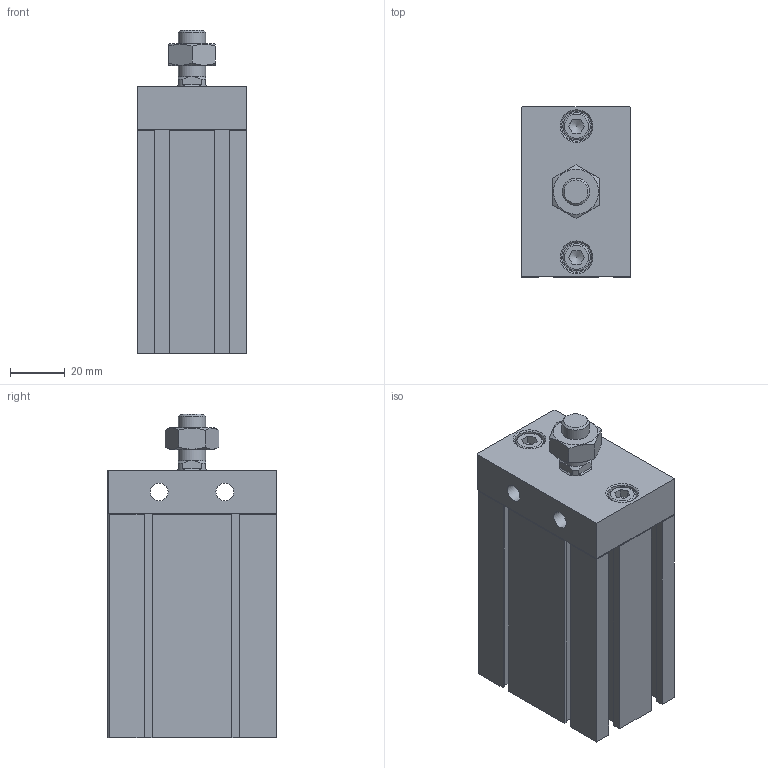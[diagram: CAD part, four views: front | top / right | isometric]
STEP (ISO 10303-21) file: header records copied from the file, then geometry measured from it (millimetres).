
FILE_DESCRIPTION((''),'2;1');
FILE_NAME('I:\3D電子目錄\氣缸\ND\ND\ND32-B\ND32x50-B.stp','2007-07-30T20:22:28',('Administrator'),(''),'Autodesk Inventor 11','Autodesk Inventor 11','');
FILE_SCHEMA(('AUTOMOTIVE_DESIGN { 1 0 10303 214 1 1 1 1 }'));
Length unit declared in the file: millimetre
Products named in the file (4): ND32-B; R 形環 34; ISO 4762 M6 x 16
Assembly tree (4 placements, depth 2):
  ND32-B
    ND32-B
    R 形環 34
    ISO 4762 M6 x 16  x2
Bounding box: 40 x 62.1 x 118.5 mm (x, y, z)
Volume: 219842.5 mm3; surface area: 41664 mm2
Topology: 5 solids, 5 shells, 205 faces, 489 edges, 311 vertices
Faces by surface type: plane 141, cylinder 27, cone 20, bspline 14, torus 3
Full cylindrical faces by diameter (mm): 1.9 x2, 2.2 x2, 6 x2, 6.5 x2, 10 x4, 11 x2, 23 x1, 34 x1, 36 x1
Entity records: 5447 total; most frequent: CARTESIAN_POINT 1131, DIRECTION 848, ORIENTED_EDGE 824, EDGE_CURVE 412, VECTOR 294, LINE 294, VERTEX_POINT 286, AXIS2_PLACEMENT_3D 277
